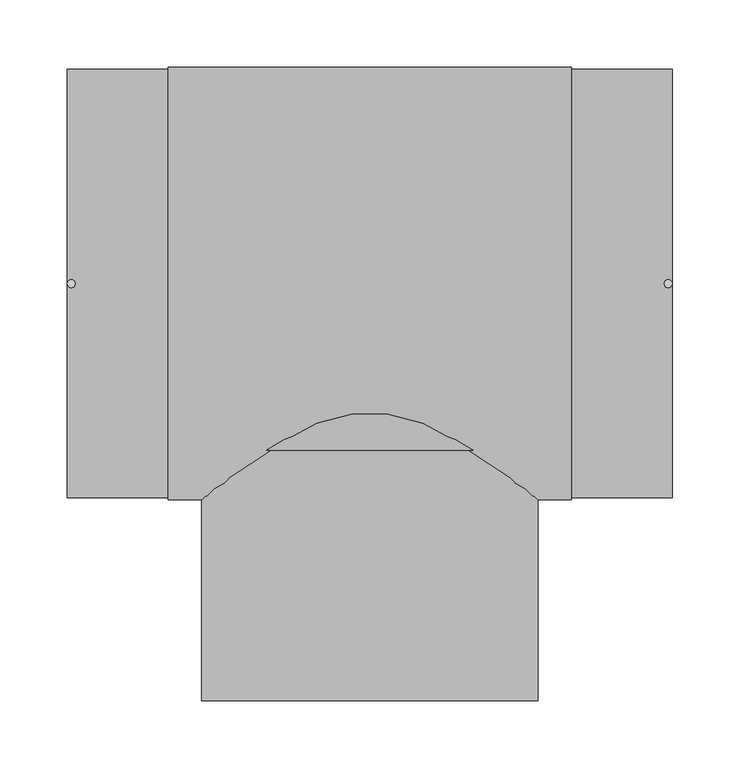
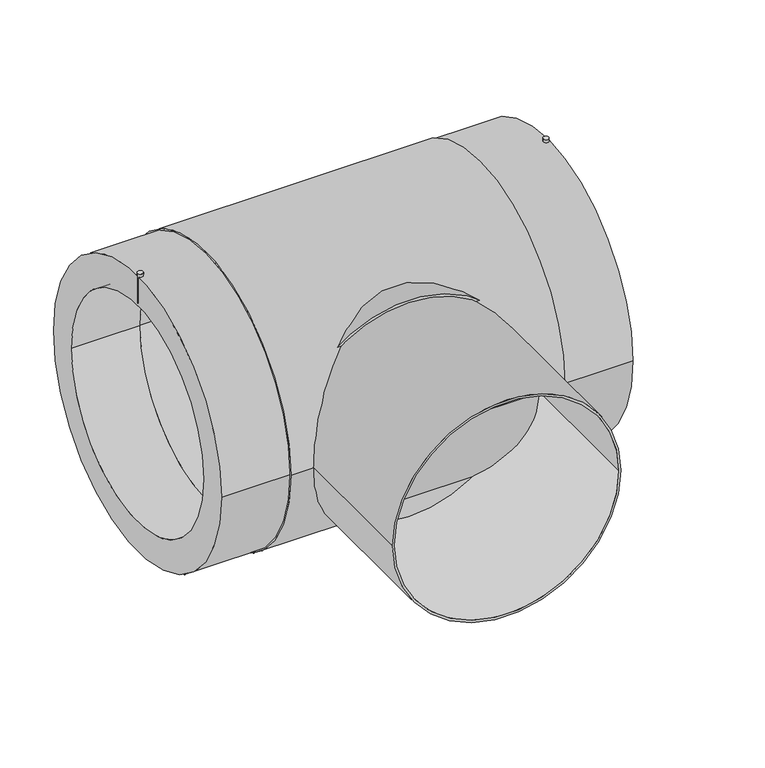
"""IFC4 building model written with IfcOpenShell, lengths in millimetres: pipe fitting geometry, EGB_VASEN_ PPR_Te electrosoldable WXRD300_Te reducida electrosoldable WXRD310 : Te electrosoldable."""

from ifc_helpers import new_model, si_unit, point, frame, frame_2d, origin, origin_2d, place, context, project, spatial, circle_curve, trimmed, segment, composite_curve, outline, extrude, source, transform, mapped, element, save


def pipe_fitting_e8c5d86e(model_context):
    return source(origin(), model_context, "Body", "SweptSolid", [
        extrude(outline(composite_curve([segment(trimmed(circle_curve(frame_2d((-222.0, 0.0)), 3.0), [point((-225.0, 0.0))], [point((-219.0, 0.0))], False, "CARTESIAN"), True, "CONTINUOUS"), segment(trimmed(circle_curve(frame_2d((-222.0, 0.0)), 3.0), [point((-219.0, 0.0))], [point((-225.0, 0.0))], False, "CARTESIAN"), True, "CONTINUOUS")], self_intersect=False)), frame((0.0, 0.0, 128.0), z_axis=(0.0, 0.0, 1.0), x_axis=(1.0, 0.0, 0.0)), (0.0, 0.0, 1.0), 34.25),
        extrude(outline(composite_curve([segment(trimmed(circle_curve(frame_2d((222.0, 0.0)), 3.0), [point((219.0, 0.0))], [point((225.0, 0.0))], False, "CARTESIAN"), True, "CONTINUOUS"), segment(trimmed(circle_curve(frame_2d((222.0, 0.0)), 3.0), [point((225.0, 0.0))], [point((219.0, 0.0))], False, "CARTESIAN"), True, "CONTINUOUS")], self_intersect=False)), frame((0.0, 0.0, 128.0), z_axis=(0.0, 0.0, 1.0), x_axis=(1.0, 0.0, 0.0)), (0.0, 0.0, 1.0), 34.25),
        extrude(outline(composite_curve([segment(trimmed(circle_curve(origin_2d(), 127.5), [point((0.0, 127.5))], [point((0.0, -127.5))], False, "CARTESIAN"), True, "CONTINUOUS"), segment(trimmed(circle_curve(origin_2d(), 127.5), [point((0.0, -127.5))], [point((0.0, 127.5))], False, "CARTESIAN"), True, "CONTINUOUS")], self_intersect=False)), frame((0.0, -124.0, 0.0), z_axis=(0.0, 1.0, 0.0), x_axis=(0.0, 0.0, 1.0)), (0.0, 0.0, 1.0), 124.0),
        extrude(outline(composite_curve([segment(trimmed(circle_curve(origin_2d(), 125.0), [point((0.0, -125.0))], [point((0.0, 125.0))], False, "CARTESIAN"), True, "CONTINUOUS"), segment(trimmed(circle_curve(origin_2d(), 125.0), [point((0.0, 125.0))], [point((0.0, -125.0))], False, "CARTESIAN"), True, "CONTINUOUS")], self_intersect=False), holes=[composite_curve([segment(trimmed(circle_curve(origin_2d(), 122.5), [point((0.0, -122.5))], [point((0.0, 122.5))], True, "CARTESIAN"), True, "CONTINUOUS"), segment(trimmed(circle_curve(origin_2d(), 122.5), [point((0.0, 122.5))], [point((0.0, -122.5))], True, "CARTESIAN"), True, "CONTINUOUS")], self_intersect=False)]), frame((0.0, -310.0, 0.0), z_axis=(0.0, 1.0, 0.0), x_axis=(0.0, 0.0, 1.0)), (0.0, 0.0, 1.0), 186.0),
        extrude(outline(composite_curve([segment(trimmed(circle_curve(origin_2d(), 160.75), [point((-160.75, 0.0))], [point((160.75, 0.0))], False, "CARTESIAN"), True, "CONTINUOUS"), segment(trimmed(circle_curve(origin_2d(), 160.75), [point((160.75, 0.0))], [point((-160.75, 0.0))], False, "CARTESIAN"), True, "CONTINUOUS")], self_intersect=False), holes=[composite_curve([segment(trimmed(circle_curve(origin_2d(), 125.0), [point((-125.0, 0.0))], [point((125.0, 0.0))], True, "CARTESIAN"), True, "CONTINUOUS"), segment(trimmed(circle_curve(origin_2d(), 125.0), [point((125.0, 0.0))], [point((-125.0, 0.0))], True, "CARTESIAN"), True, "CONTINUOUS")], self_intersect=False)]), frame((-150.0, 0.0, 0.0), z_axis=(1.0, 0.0, 0.0), x_axis=(0.0, 1.0, 0.0)), (0.0, 0.0, 1.0), 300.0),
        extrude(outline(composite_curve([segment(trimmed(circle_curve(origin_2d(), 159.25), [point((-159.25, 0.0))], [point((159.25, 0.0))], False, "CARTESIAN"), True, "CONTINUOUS"), segment(trimmed(circle_curve(origin_2d(), 159.25), [point((159.25, 0.0))], [point((-159.25, 0.0))], False, "CARTESIAN"), True, "CONTINUOUS")], self_intersect=False), holes=[composite_curve([segment(trimmed(circle_curve(origin_2d(), 125.0), [point((-125.0, 0.0))], [point((125.0, 0.0))], True, "CARTESIAN"), True, "CONTINUOUS"), segment(trimmed(circle_curve(origin_2d(), 125.0), [point((125.0, 0.0))], [point((-125.0, 0.0))], True, "CARTESIAN"), True, "CONTINUOUS")], self_intersect=False)]), frame((-225.0, 0.0, 0.0), z_axis=(1.0, 0.0, 0.0), x_axis=(0.0, 1.0, 0.0)), (0.0, 0.0, 1.0), 450.0),
    ])


if __name__ == "__main__":
    model = new_model("IFC4")
    model_context = context("Model", 3, world=origin())
    ifc_project = project(units=[si_unit("LENGTHUNIT", "METRE", prefix="MILLI")], contexts=[model_context])
    site = spatial("IfcSite", under=ifc_project)
    building = spatial("IfcBuilding", under=site)
    placement = place(None, origin())
    pipe_fitting_shape = pipe_fitting_e8c5d86e(model_context)
    element("IfcPipeFitting", 1, ObjectType="EGB_VASEN_ PPR_Te electrosoldable WXRD300_Te reducida electrosoldable WXRD310 : Te electrosoldable", at=placement, inside=building, context=model_context, shape_type="MappedRepresentation", body=[
        mapped(pipe_fitting_shape, transform((0.0, 0.0, 0.0), x_axis=(1.0, 0.0, 0.0), y_axis=(0.0, 1.0, 0.0), z_axis=(0.0, 0.0, 1.0))),
    ])
    save(model, "model.ifc")
